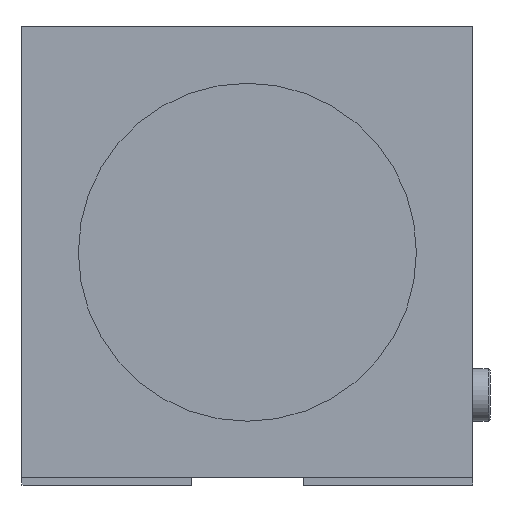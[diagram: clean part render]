
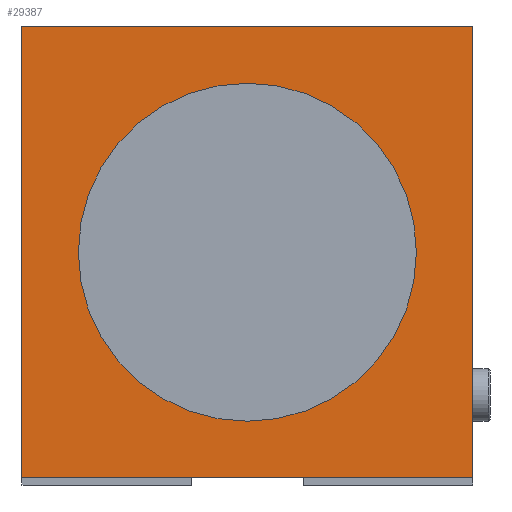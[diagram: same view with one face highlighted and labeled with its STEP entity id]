
A CAD part, front view. The second image highlights one B-rep face of the part: STEP entity #29387.
In plain terms, the highlighted planar face has unit normal (0, -1, 0).
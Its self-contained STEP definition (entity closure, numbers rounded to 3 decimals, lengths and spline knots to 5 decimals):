
#1540 = EDGE_CURVE ( 'NONE', #23954, #23954, #14715, .T. ) ;
#1615 = CARTESIAN_POINT ( 'NONE',  ( 0., -0.378, 0.015 ) ) ;
#5130 = ORIENTED_EDGE ( 'NONE', *, *, #16156, .T. ) ;
#5270 = CARTESIAN_POINT ( 'NONE',  ( -0.06, -0.378, 0.12 ) ) ;
#6517 = ORIENTED_EDGE ( 'NONE', *, *, #1540, .F. ) ;
#9071 = EDGE_CURVE ( 'NONE', #21544, #22481, #13471, .T. ) ;
#9735 = VERTEX_POINT ( 'NONE', #18573 ) ;
#10287 = EDGE_CURVE ( 'NONE', #9735, #31816, #19538, .T. ) ;
#10313 = VECTOR ( 'NONE', #35129, 1. ) ;
#10909 = CARTESIAN_POINT ( 'NONE',  ( -0.06, -0.378, 0. ) ) ;
#10949 = AXIS2_PLACEMENT_3D ( 'NONE', #22062, #18896, #14153 ) ;
#12552 = FACE_OUTER_BOUND ( 'NONE', #28767, .T. ) ;
#12830 = CARTESIAN_POINT ( 'NONE',  ( -0.06, -0.378, 0.12 ) ) ;
#13471 = LINE ( 'NONE', #33645, #35723 ) ;
#13676 = DIRECTION ( 'NONE',  ( 0., 0., 1. ) ) ;
#13951 = LINE ( 'NONE', #18481, #35288 ) ;
#14153 = DIRECTION ( 'NONE',  ( 0., 0., -1. ) ) ;
#14715 = CIRCLE ( 'NONE', #10949, 0.045 ) ;
#15372 = EDGE_LOOP ( 'NONE', ( #6517 ) ) ;
#16156 = EDGE_CURVE ( 'NONE', #21544, #9735, #30794, .T. ) ;
#17175 = CARTESIAN_POINT ( 'NONE',  ( -0.06, -0.378, 0.12 ) ) ;
#18481 = CARTESIAN_POINT ( 'NONE',  ( 0.06, -0.378, 0.12 ) ) ;
#18573 = CARTESIAN_POINT ( 'NONE',  ( -0.06, -0.378, 0. ) ) ;
#18636 = VECTOR ( 'NONE', #27575, 1. ) ;
#18896 = DIRECTION ( 'NONE',  ( 0., -1., 0. ) ) ;
#19538 = LINE ( 'NONE', #10909, #18636 ) ;
#21544 = VERTEX_POINT ( 'NONE', #17175 ) ;
#22062 = CARTESIAN_POINT ( 'NONE',  ( 0., -0.378, 0.06 ) ) ;
#22313 = CARTESIAN_POINT ( 'NONE',  ( 0.06, -0.378, 0. ) ) ;
#22481 = VERTEX_POINT ( 'NONE', #26035 ) ;
#22546 = DIRECTION ( 'NONE',  ( 1., 0., 0. ) ) ;
#23954 = VERTEX_POINT ( 'NONE', #1615 ) ;
#26035 = CARTESIAN_POINT ( 'NONE',  ( 0.06, -0.378, 0.12 ) ) ;
#27026 = ORIENTED_EDGE ( 'NONE', *, *, #28139, .F. ) ;
#27384 = FACE_BOUND ( 'NONE', #15372, .T. ) ;
#27561 = PLANE ( 'NONE',  #27920 ) ;
#27575 = DIRECTION ( 'NONE',  ( 1., 0., 0. ) ) ;
#27920 = AXIS2_PLACEMENT_3D ( 'NONE', #5270, #30354, #13676 ) ;
#27989 = ORIENTED_EDGE ( 'NONE', *, *, #9071, .F. ) ;
#28139 = EDGE_CURVE ( 'NONE', #22481, #31816, #13951, .T. ) ;
#28767 = EDGE_LOOP ( 'NONE', ( #35607, #27026, #27989, #5130 ) ) ;
#29387 = ADVANCED_FACE ( 'NONE', ( #27384, #12552 ), #27561, .F. ) ;
#30354 = DIRECTION ( 'NONE',  ( 0., 1., 0. ) ) ;
#30794 = LINE ( 'NONE', #12830, #10313 ) ;
#31816 = VERTEX_POINT ( 'NONE', #22313 ) ;
#33645 = CARTESIAN_POINT ( 'NONE',  ( -0.06, -0.378, 0.12 ) ) ;
#35129 = DIRECTION ( 'NONE',  ( 0., 0., -1. ) ) ;
#35164 = DIRECTION ( 'NONE',  ( 0., 0., -1. ) ) ;
#35288 = VECTOR ( 'NONE', #35164, 1. ) ;
#35607 = ORIENTED_EDGE ( 'NONE', *, *, #10287, .T. ) ;
#35723 = VECTOR ( 'NONE', #22546, 1. ) ;
